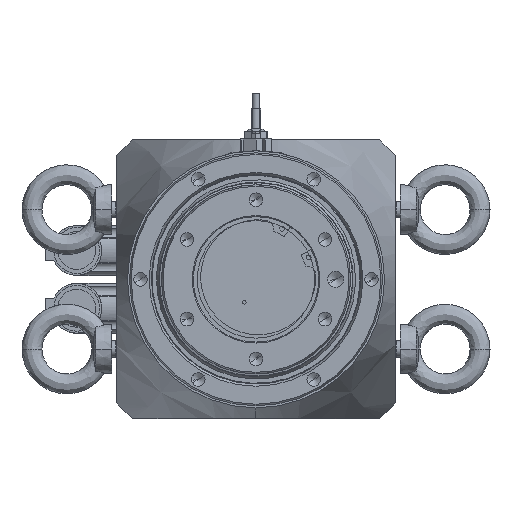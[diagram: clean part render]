
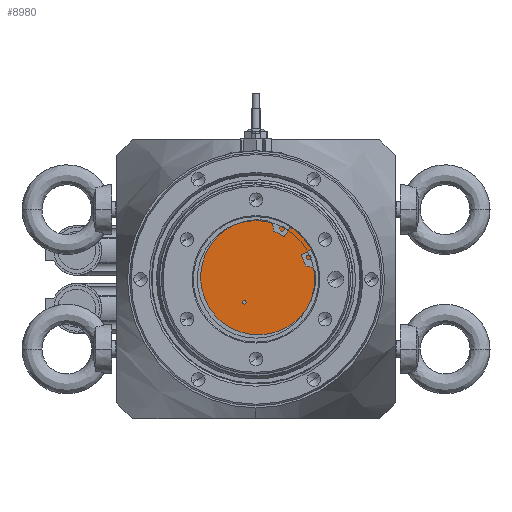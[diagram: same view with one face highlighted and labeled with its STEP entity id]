
A CAD part, front view. The second image highlights one B-rep face of the part: STEP entity #8980.
In plain terms, the highlighted planar face has unit normal (0, -1, 0).
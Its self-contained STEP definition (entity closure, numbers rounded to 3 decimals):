
#169 = CARTESIAN_POINT ( 'NONE',  ( -36.22, -247.879, -47.75 ) ) ;
#579 = CARTESIAN_POINT ( 'NONE',  ( -63.5, -247.879, -63.5 ) ) ;
#942 = VERTEX_POINT ( 'NONE', #1855 ) ;
#1842 = DIRECTION ( 'NONE',  ( 0.866, 0., 0.5 ) ) ;
#1855 = CARTESIAN_POINT ( 'NONE',  ( -90.78, -247.879, -79.25 ) ) ;
#2789 = DIRECTION ( 'NONE',  ( 0., 1., 0. ) ) ;
#2844 = EDGE_CURVE ( 'NONE', #24567, #5459, #9328, .T. ) ;
#2939 = AXIS2_PLACEMENT_3D ( 'NONE', #9112, #21215, #1842 ) ;
#3076 = DIRECTION ( 'NONE',  ( 0.866, 0., 0.5 ) ) ;
#3283 = CARTESIAN_POINT ( 'NONE',  ( -70.273, -247.879, -75.425 ) ) ;
#4058 = AXIS2_PLACEMENT_3D ( 'NONE', #24593, #29372, #4851 ) ;
#4851 = DIRECTION ( 'NONE',  ( 0.866, 0., 0.5 ) ) ;
#4944 = ORIENTED_EDGE ( 'NONE', *, *, #2844, .T. ) ;
#5459 = VERTEX_POINT ( 'NONE', #3283 ) ;
#5542 = DIRECTION ( 'NONE',  ( 0.866, 0., 0.5 ) ) ;
#6786 = ORIENTED_EDGE ( 'NONE', *, *, #7373, .F. ) ;
#7373 = EDGE_CURVE ( 'NONE', #942, #24430, #16385, .T. ) ;
#8980 = ADVANCED_FACE ( 'NONE', ( #19597, #23435 ), #10060, .F. ) ;
#9112 = CARTESIAN_POINT ( 'NONE',  ( -63.5, -247.879, -63.5 ) ) ;
#9328 = CIRCLE ( 'NONE', #23740, 1. ) ;
#9401 = EDGE_LOOP ( 'NONE', ( #6786, #14656 ) ) ;
#10060 = PLANE ( 'NONE',  #10987 ) ;
#10987 = AXIS2_PLACEMENT_3D ( 'NONE', #579, #22712, #5542 ) ;
#12207 = CARTESIAN_POINT ( 'NONE',  ( -69.407, -247.879, -74.925 ) ) ;
#14656 = ORIENTED_EDGE ( 'NONE', *, *, #23967, .F. ) ;
#15274 = CIRCLE ( 'NONE', #4058, 1. ) ;
#16385 = CIRCLE ( 'NONE', #2939, 31.5 ) ;
#16716 = CIRCLE ( 'NONE', #26158, 31.5 ) ;
#19415 = ORIENTED_EDGE ( 'NONE', *, *, #29297, .T. ) ;
#19597 = FACE_OUTER_BOUND ( 'NONE', #9401, .T. ) ;
#20039 = DIRECTION ( 'NONE',  ( 0.866, 0., 0.5 ) ) ;
#20413 = CARTESIAN_POINT ( 'NONE',  ( -63.5, -247.879, -63.5 ) ) ;
#21215 = DIRECTION ( 'NONE',  ( 0., 1., 0. ) ) ;
#22627 = CARTESIAN_POINT ( 'NONE',  ( -68.541, -247.879, -74.425 ) ) ;
#22712 = DIRECTION ( 'NONE',  ( 0., 1., 0. ) ) ;
#23435 = FACE_BOUND ( 'NONE', #27034, .T. ) ;
#23740 = AXIS2_PLACEMENT_3D ( 'NONE', #12207, #2789, #20039 ) ;
#23967 = EDGE_CURVE ( 'NONE', #24430, #942, #16716, .T. ) ;
#24430 = VERTEX_POINT ( 'NONE', #169 ) ;
#24567 = VERTEX_POINT ( 'NONE', #22627 ) ;
#24593 = CARTESIAN_POINT ( 'NONE',  ( -69.407, -247.879, -74.925 ) ) ;
#26158 = AXIS2_PLACEMENT_3D ( 'NONE', #20413, #30143, #3076 ) ;
#27034 = EDGE_LOOP ( 'NONE', ( #19415, #4944 ) ) ;
#29297 = EDGE_CURVE ( 'NONE', #5459, #24567, #15274, .T. ) ;
#29372 = DIRECTION ( 'NONE',  ( 0., 1., 0. ) ) ;
#30143 = DIRECTION ( 'NONE',  ( 0., 1., 0. ) ) ;
